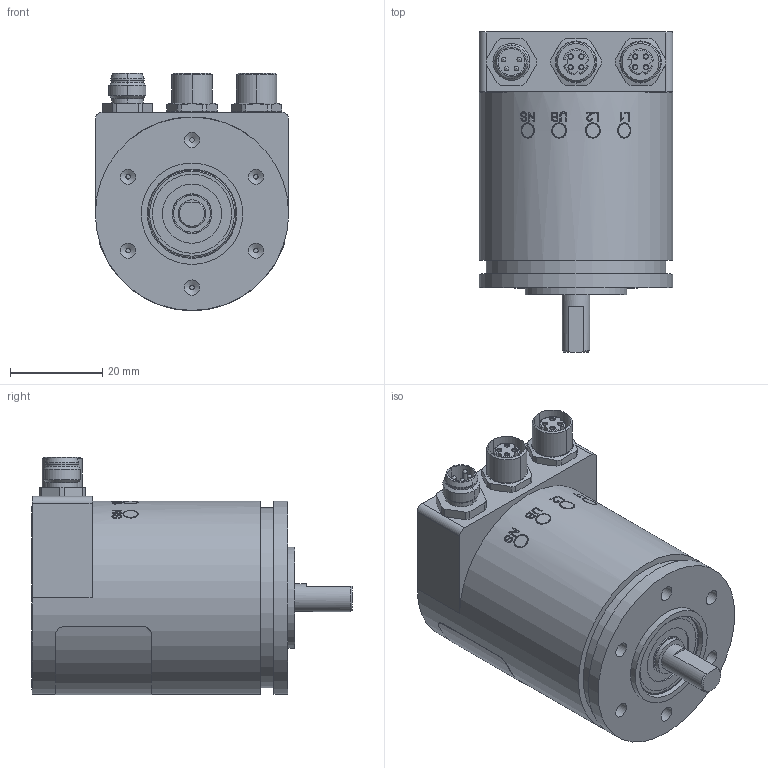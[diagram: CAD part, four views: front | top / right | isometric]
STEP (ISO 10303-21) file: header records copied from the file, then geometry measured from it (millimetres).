
FILE_DESCRIPTION (( 'STEP AP214' ), '1' );
FILE_NAME ('17216bb0.STEP', '2024-12-03T13:29:27', ( '' ), ( '' ), 'SwSTEP 2.0', 'SolidWorks 2024', '' );
FILE_SCHEMA (( 'AUTOMOTIVE_DESIGN' ));
Length unit declared in the file: millimetre
Products named in the file (1): 17216bb0
Bounding box: 41.95 x 69.45 x 51.52 mm (x, y, z)
Volume: 80012.2 mm3; surface area: 18019.1 mm2
Topology: 4 solids, 8 shells, 428 faces, 989 edges, 640 vertices
Faces by surface type: plane 161, cylinder 133, cone 48, bspline 39, torus 28, sphere 19
Full cylindrical faces by diameter (mm): 0.92 x8, 1.6 x2, 3.3 x10, 6 x2, 7.5 x1, 8 x1, 8.5 x1, 8.62 x1, 9.5 x3, 12.8 x1, 13.4 x1, 16.5 x1, 17.16 x2, 19 x1, 22 x1, 39 x1, 40 x1, 41.95 x2
Entity records: 14503 total; most frequent: CARTESIAN_POINT 5228, DIRECTION 1856, ORIENTED_EDGE 1822, EDGE_CURVE 911, AXIS2_PLACEMENT_3D 751, VERTEX_POINT 627, EDGE_LOOP 574, FACE_OUTER_BOUND 470
